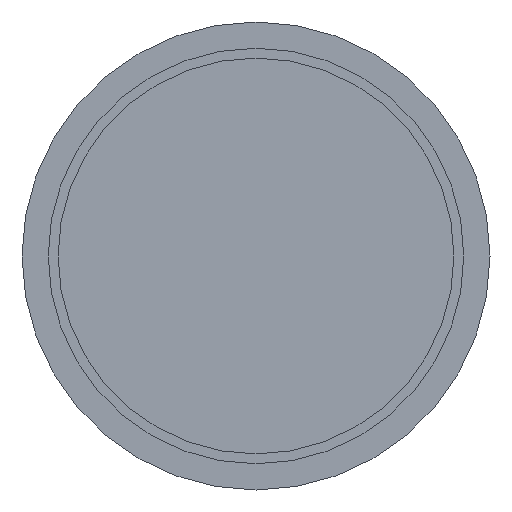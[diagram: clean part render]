
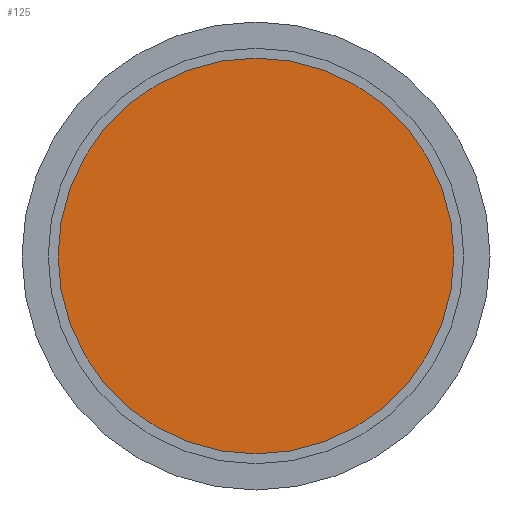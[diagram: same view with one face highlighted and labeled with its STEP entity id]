
A CAD part, front view. The second image highlights one B-rep face of the part: STEP entity #125.
In plain terms, the highlighted planar face has unit normal (0, -1, 0).
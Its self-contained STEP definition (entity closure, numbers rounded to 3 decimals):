
#3 = FACE_OUTER_BOUND ( 'NONE', #413, .T. ) ;
#15 = EDGE_CURVE ( 'NONE', #350, #91, #78, .T. ) ;
#78 = CIRCLE ( 'NONE', #324, 101.5 ) ;
#91 = VERTEX_POINT ( 'NONE', #613 ) ;
#125 = ADVANCED_FACE ( 'NONE', ( #3 ), #525, .F. ) ;
#168 = EDGE_CURVE ( 'NONE', #91, #350, #579, .T. ) ;
#218 = DIRECTION ( 'NONE',  ( 0., -1., 0. ) ) ;
#245 = DIRECTION ( 'NONE',  ( 0., -1., 0. ) ) ;
#299 = DIRECTION ( 'NONE',  ( 0., 0., -1. ) ) ;
#309 = ORIENTED_EDGE ( 'NONE', *, *, #15, .T. ) ;
#324 = AXIS2_PLACEMENT_3D ( 'NONE', #510, #218, #604 ) ;
#350 = VERTEX_POINT ( 'NONE', #503 ) ;
#413 = EDGE_LOOP ( 'NONE', ( #309, #581 ) ) ;
#426 = CARTESIAN_POINT ( 'NONE',  ( 0., 0., 101.5 ) ) ;
#446 = CARTESIAN_POINT ( 'NONE',  ( 0., 0., 0. ) ) ;
#473 = DIRECTION ( 'NONE',  ( 0., 1., 0. ) ) ;
#503 = CARTESIAN_POINT ( 'NONE',  ( 0., 0., -101.5 ) ) ;
#510 = CARTESIAN_POINT ( 'NONE',  ( 0., 0., 0. ) ) ;
#525 = PLANE ( 'NONE',  #535 ) ;
#535 = AXIS2_PLACEMENT_3D ( 'NONE', #426, #473, #541 ) ;
#541 = DIRECTION ( 'NONE',  ( 0., 0., 1. ) ) ;
#579 = CIRCLE ( 'NONE', #582, 101.5 ) ;
#581 = ORIENTED_EDGE ( 'NONE', *, *, #168, .T. ) ;
#582 = AXIS2_PLACEMENT_3D ( 'NONE', #446, #245, #299 ) ;
#604 = DIRECTION ( 'NONE',  ( 0., 0., -1. ) ) ;
#613 = CARTESIAN_POINT ( 'NONE',  ( 0., 0., 101.5 ) ) ;
